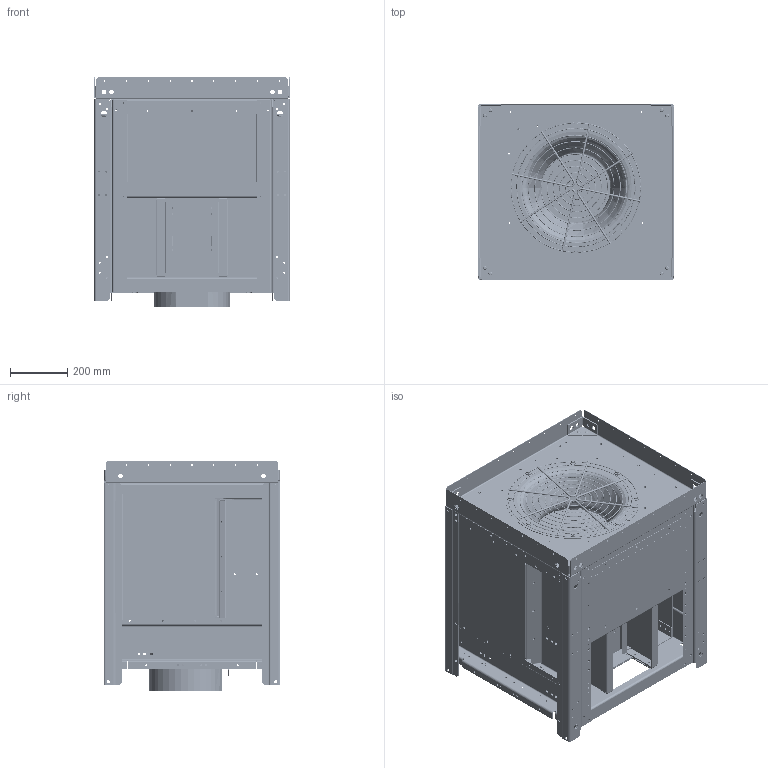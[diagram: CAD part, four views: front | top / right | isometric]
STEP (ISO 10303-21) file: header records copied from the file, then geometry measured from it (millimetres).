
FILE_DESCRIPTION((''),'2;1');
FILE_NAME('150_100_215T_ASM_ASM','2016-08-03T',('cthatcc'),(''),'CREO PARAMETRIC BY PTC INC, 2016050','CREO PARAMETRIC BY PTC INC, 2016050','');
FILE_SCHEMA(('CONFIG_CONTROL_DESIGN'));
Length unit declared in the file: inch
Products named in the file (74): 0575820017_1_1; 0575830009_1_1; 0575740013_1_1; 0575880019_1_1; 0578340001_1_1; 057834_MIR_1_1; 0575820017_MIR_1_1; 0575990017_ASM_2_ASM_1_ASM; 0575680019; NEMA_215T_TEFC_1_1; 0575690010_1_1; 0576650020_1_1; 0575650009_5_1; 0575760009_8_1; 0575880020_1_1; 057581_1_1; NUT-INSERT_RIVET_31-18THD_1_1; WA012_1_1; HCS048_2_1; 0575660018_1_1; 0575700028_1_1; 0575790024_1_1; 0575890023_ASM_1_ASM_1_ASM; 0575660019_1_1; 0575700029_1_1; 0575790025_1_1; 0575890024_ASM_1_ASM_1_ASM; 058559_1_1; INLETGUARD_150_1_1; RING_V_1_1; RING_X_1_1; ROD_150_1_1; 0576560006_ASM_1_ASM_1_ASM; 0585510020_1_1; 0585510019_1_1; WHEEL_DUMMY_150_1_1; 057699-150-001_4_1; 057699-150-012_4_1; 057699-150-002_4_1; 057699-150-010_4_1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
Assembly tree (184 placements, depth 6):
  150_100_215T_ASM_ASM
    150_100_215T_ASM_ASM_1_ASM
      150_100_215T_TRANE_ASM_20_ASM_1_ASM
        0575990017_ASM_2_ASM_1_ASM  x2
          0575820017_1_1
          0575830009_1_1
          0575740013_1_1
          0575880019_1_1
          0578340001_1_1
          057834_MIR_1_1
          0575820017_MIR_1_1
        0575680019
        NEMA_215T_TEFC_1_1
        0575690010_1_1
        0576650020_1_1
        0575650009_5_1
        0575760009_8_1
        0575880020_1_1  x3
        057581_1_1  x4
        NUT-INSERT_RIVET_31-18THD_1_1  x8
        WA012_1_1  x8
        HCS048_2_1  x8
        0575890023_ASM_1_ASM_1_ASM
          0575660018_1_1
          0575700028_1_1
          0575790024_1_1
        0575890024_ASM_1_ASM_1_ASM
          0575660019_1_1
          0575700029_1_1
          0575790025_1_1
        058559_1_1
        0576560006_ASM_1_ASM_1_ASM
          INLETGUARD_150_1_1
          RING_V_1_1
          RING_X_1_1
          ROD_150_1_1  x4
        0585510020_1_1  x2
        0585510019_1_1  x2
        WHEEL_DUMMY_150_1_1
        057699-150_ASM_40_ASM_1_ASM
          057699-150__ASM_4_ASM_1_ASM
            057699-150-001_4_1
            057699-150-012_4_1
            057699-150-002_4_1
            057699-150-010_4_1
            057699-150-013_4_1
            057699-150-004_4_1  x14
            057699-150-008_4_1  x14
            057699-150-014_4_1  x2
            057699-150-015_4_1  x2
            057699-150-009_4_1
            057699-150-011_4_1
            057699-150-016_4_1
            057699-150-017_4_1
            057699-150-018_4_1
            057699-150-019_4_1
            057699-150-020_4_1
            057699-150-021_4_1
          057699-150-MIR_ASM_6_ASM_1_ASM
            057699-150-001_MIR_5_1
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Bounding box: 680.21 x 614.68 x 798.76 mm (x, y, z)
Volume: 82202175.5 mm3; surface area: 13232463.8 mm2
Topology: 180 solids, 180 shells, 4835 faces, 12064 edges, 7642 vertices
Faces by surface type: cylinder 2727, plane 1812, torus 164, bspline 74, cone 58
Entity records: 109573 total; most frequent: CARTESIAN_POINT 32159, DIRECTION 17136, ORIENTED_EDGE 14680, EDGE_CURVE 7340, AXIS2_PLACEMENT_3D 6675, VERTEX_POINT 4584, EDGE_LOOP 4138, VECTOR 3786
